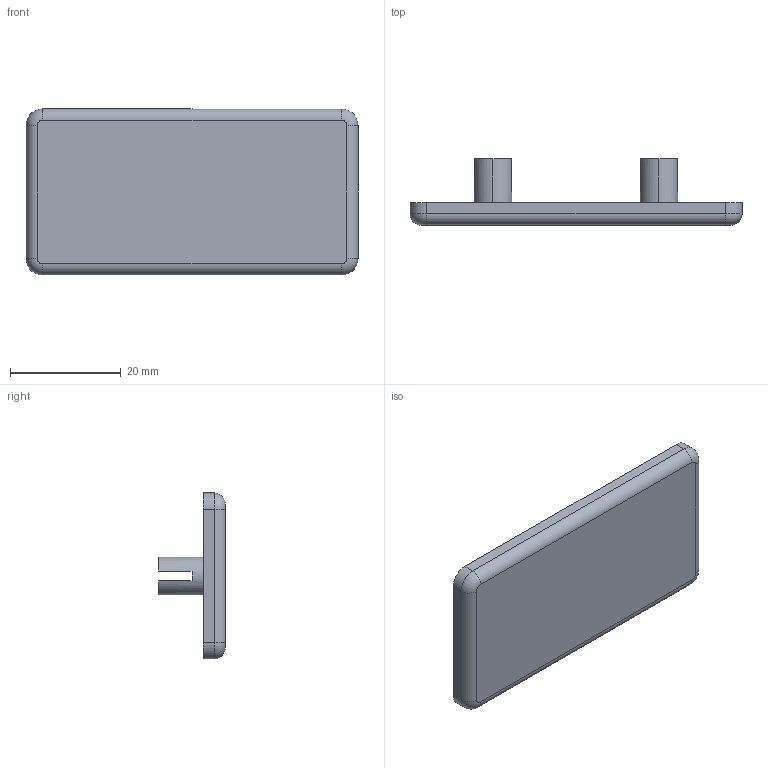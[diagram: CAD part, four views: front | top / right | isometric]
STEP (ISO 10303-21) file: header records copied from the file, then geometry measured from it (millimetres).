
FILE_DESCRIPTION (( 'STEP AP203' ), '1' );
FILE_NAME ('EC30X60.STEP', '2018-03-15T12:38:02', ( '' ), ( '' ), 'SwSTEP 2.0', 'SolidWorks 2013', '' );
FILE_SCHEMA (( 'CONFIG_CONTROL_DESIGN' ));
Length unit declared in the file: millimetre
Products named in the file (1): EC30X60
Bounding box: 60 x 12 x 30 mm (x, y, z)
Volume: 4484.7 mm3; surface area: 5165.5 mm2
Topology: 1 solids, 1 shells, 53 faces, 132 edges, 84 vertices
Faces by surface type: plane 29, cylinder 16, cone 4, torus 4
Entity records: 1663 total; most frequent: DIRECTION 296, CARTESIAN_POINT 270, ORIENTED_EDGE 264, EDGE_CURVE 132, AXIS2_PLACEMENT_3D 110, VERTEX_POINT 84, VECTOR 76, LINE 76
